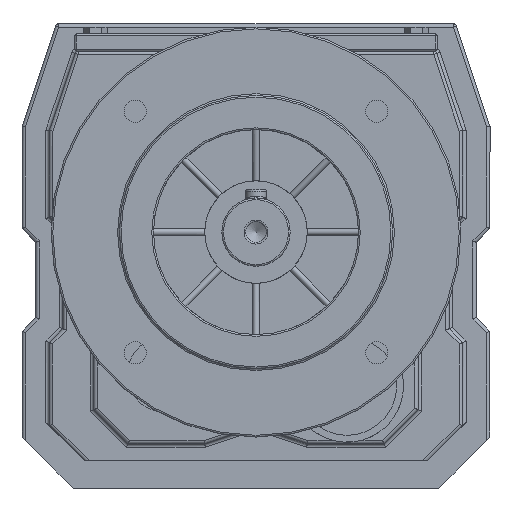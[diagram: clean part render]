
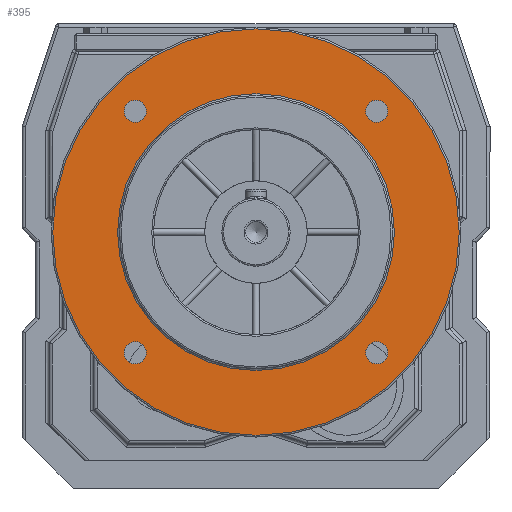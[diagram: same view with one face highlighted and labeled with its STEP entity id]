
A CAD part, front view. The second image highlights one B-rep face of the part: STEP entity #395.
In plain terms, the highlighted planar face has unit normal (0, -1, 0).
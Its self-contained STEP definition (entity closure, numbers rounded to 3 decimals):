
#105=CARTESIAN_POINT('',(-32.105,-73.,110.355));
#106=VERTEX_POINT('',#105);
#107=CARTESIAN_POINT('',(-35.355,-73.,110.355));
#108=DIRECTION('',(0.0,1.0,0.0));
#109=DIRECTION('',(1.0,0.0,0.0));
#110=AXIS2_PLACEMENT_3D('',#107,#108,#109);
#111=CIRCLE('',#110,3.25);
#112=EDGE_CURVE('',#106,#106,#111,.T.);
#154=CARTESIAN_POINT('',(-32.105,-73.,39.645));
#155=VERTEX_POINT('',#154);
#156=CARTESIAN_POINT('',(-35.355,-73.,39.645));
#157=DIRECTION('',(0.0,1.0,0.0));
#158=DIRECTION('',(1.0,0.0,0.0));
#159=AXIS2_PLACEMENT_3D('',#156,#157,#158);
#160=CIRCLE('',#159,3.25);
#161=EDGE_CURVE('',#155,#155,#160,.T.);
#203=CARTESIAN_POINT('',(38.605,-73.,39.645));
#204=VERTEX_POINT('',#203);
#205=CARTESIAN_POINT('',(35.355,-73.,39.645));
#206=DIRECTION('',(0.0,1.0,0.0));
#207=DIRECTION('',(1.0,0.0,0.0));
#208=AXIS2_PLACEMENT_3D('',#205,#206,#207);
#209=CIRCLE('',#208,3.25);
#210=EDGE_CURVE('',#204,#204,#209,.T.);
#252=CARTESIAN_POINT('',(38.605,-73.,110.355));
#253=VERTEX_POINT('',#252);
#254=CARTESIAN_POINT('',(35.355,-73.,110.355));
#255=DIRECTION('',(0.0,1.0,0.0));
#256=DIRECTION('',(1.0,0.0,0.0));
#257=AXIS2_PLACEMENT_3D('',#254,#255,#256);
#258=CIRCLE('',#257,3.25);
#259=EDGE_CURVE('',#253,#253,#258,.T.);
#349=CARTESIAN_POINT('',(0.0,-73.,134.5));
#350=VERTEX_POINT('',#349);
#351=CARTESIAN_POINT('',(0.0,-73.,75.0));
#352=DIRECTION('',(0.0,1.0,0.0));
#353=DIRECTION('',(0.0,0.0,-1.0));
#354=AXIS2_PLACEMENT_3D('',#351,#352,#353);
#355=CIRCLE('',#354,59.5);
#356=EDGE_CURVE('',#350,#350,#355,.T.);
#364=CARTESIAN_POINT('',(0.0,-73.,125.0));
#365=DIRECTION('',(0.0,-1.0,0.0));
#366=DIRECTION('',(0.0,0.0,-1.0));
#367=AXIS2_PLACEMENT_3D('',#364,#365,#366);
#368=PLANE('',#367);
#369=ORIENTED_EDGE('',*,*,#356,.F.);
#370=EDGE_LOOP('',(#369));
#371=FACE_OUTER_BOUND('',#370,.T.);
#372=ORIENTED_EDGE('',*,*,#112,.T.);
#373=EDGE_LOOP('',(#372));
#374=FACE_BOUND('',#373,.T.);
#375=ORIENTED_EDGE('',*,*,#161,.T.);
#376=EDGE_LOOP('',(#375));
#377=FACE_BOUND('',#376,.T.);
#378=ORIENTED_EDGE('',*,*,#210,.T.);
#379=EDGE_LOOP('',(#378));
#380=FACE_BOUND('',#379,.T.);
#381=ORIENTED_EDGE('',*,*,#259,.T.);
#382=EDGE_LOOP('',(#381));
#383=FACE_BOUND('',#382,.T.);
#384=CARTESIAN_POINT('',(0.,-73.,115.5));
#385=VERTEX_POINT('',#384);
#386=CARTESIAN_POINT('',(0.0,-73.,75.0));
#387=DIRECTION('',(0.0,-1.0,0.0));
#388=DIRECTION('',(0.0,0.0,-1.0));
#389=AXIS2_PLACEMENT_3D('',#386,#387,#388);
#390=CIRCLE('',#389,40.5);
#391=EDGE_CURVE('',#385,#385,#390,.T.);
#392=ORIENTED_EDGE('',*,*,#391,.F.);
#393=EDGE_LOOP('',(#392));
#394=FACE_BOUND('',#393,.T.);
#395=ADVANCED_FACE('',(#371,#374,#377,#380,#383,#394),#368,.T.);
